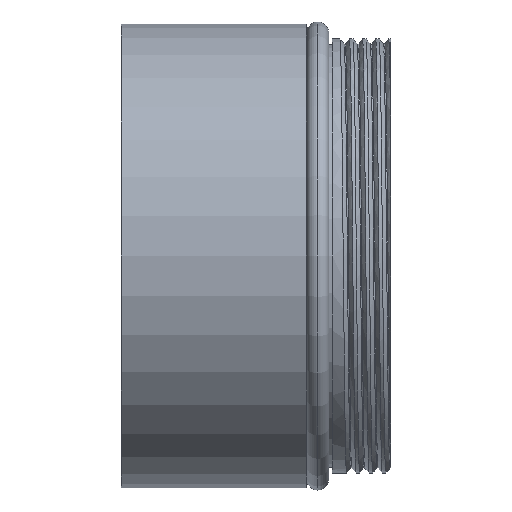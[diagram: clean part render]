
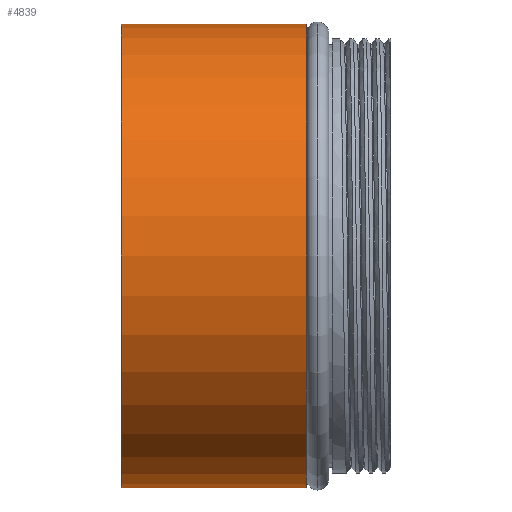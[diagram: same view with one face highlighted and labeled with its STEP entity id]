
A CAD part, front view. The second image highlights one B-rep face of the part: STEP entity #4839.
In plain terms, the highlighted cylindrical face has radius 24.981 mm (diameter 49.962 mm), a partial arc.
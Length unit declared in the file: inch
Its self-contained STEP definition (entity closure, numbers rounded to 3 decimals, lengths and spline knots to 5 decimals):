
#3011 = CARTESIAN_POINT ( 'NONE',  ( -0.11095, 0., 0. ) ) ;
#3086 = DIRECTION ( 'NONE',  ( 0., 0., 1. ) ) ;
#3087 = DIRECTION ( 'NONE',  ( -1., 0., 0. ) ) ;
#3088 = AXIS2_PLACEMENT_3D ( 'NONE', #3093, #3087, #3086 ) ;
#3089 = CIRCLE ( 'NONE', #3088, 0.9835 ) ;
#3090 = DIRECTION ( 'NONE',  ( 0., 0., 1. ) ) ;
#3091 = DIRECTION ( 'NONE',  ( -1., 0., 0. ) ) ;
#3092 = AXIS2_PLACEMENT_3D ( 'NONE', #3011, #3091, #3090 ) ;
#3093 = CARTESIAN_POINT ( 'NONE',  ( 0., 0., 0. ) ) ;
#3094 = CYLINDRICAL_SURFACE ( 'NONE', #3092, 0.9835 ) ;
#3095 = FACE_OUTER_BOUND ( 'NONE', #4941, .T. ) ;
#3685 = AXIS2_PLACEMENT_3D ( 'NONE', #3734, #3690, #3689 ) ;
#3689 = DIRECTION ( 'NONE',  ( 0., 0., 1. ) ) ;
#3690 = DIRECTION ( 'NONE',  ( -1., 0., 0. ) ) ;
#3734 = CARTESIAN_POINT ( 'NONE',  ( 0.785, 0., 0. ) ) ;
#3748 = CIRCLE ( 'NONE', #3685, 0.9835 ) ;
#4467 = VERTEX_POINT ( 'NONE', #5167 ) ;
#4468 = VERTEX_POINT ( 'NONE', #5166 ) ;
#4470 = EDGE_CURVE ( 'NONE', #4468, #4471, #5165, .T. ) ;
#4471 = VERTEX_POINT ( 'NONE', #5161 ) ;
#4505 = EDGE_CURVE ( 'NONE', #4467, #4575, #5357, .T. ) ;
#4575 = VERTEX_POINT ( 'NONE', #5523 ) ;
#4839 = ADVANCED_FACE ( 'NONE', ( #3095 ), #3094, .T. ) ;
#4840 = ORIENTED_EDGE ( 'NONE', *, *, #4470, .F. ) ;
#4841 = ORIENTED_EDGE ( 'NONE', *, *, #4955, .T. ) ;
#4842 = ORIENTED_EDGE ( 'NONE', *, *, #4505, .T. ) ;
#4843 = ORIENTED_EDGE ( 'NONE', *, *, #4844, .F. ) ;
#4844 = EDGE_CURVE ( 'NONE', #4471, #4575, #3089, .T. ) ;
#4941 = EDGE_LOOP ( 'NONE', ( #4840, #4841, #4842, #4843 ) ) ;
#4955 = EDGE_CURVE ( 'NONE', #4468, #4467, #3748, .T. ) ;
#5161 = CARTESIAN_POINT ( 'NONE',  ( 0., 0., -0.9835 ) ) ;
#5162 = DIRECTION ( 'NONE',  ( -1., 0., 0. ) ) ;
#5163 = VECTOR ( 'NONE', #5162, 39.37008 ) ;
#5164 = CARTESIAN_POINT ( 'NONE',  ( -0.11095, 0., -0.9835 ) ) ;
#5165 = LINE ( 'NONE', #5164, #5163 ) ;
#5166 = CARTESIAN_POINT ( 'NONE',  ( 0.785, 0., -0.9835 ) ) ;
#5167 = CARTESIAN_POINT ( 'NONE',  ( 0.785, 0., 0.9835 ) ) ;
#5354 = DIRECTION ( 'NONE',  ( -1., 0., 0. ) ) ;
#5355 = VECTOR ( 'NONE', #5354, 39.37008 ) ;
#5356 = CARTESIAN_POINT ( 'NONE',  ( -0.11095, 0., 0.9835 ) ) ;
#5357 = LINE ( 'NONE', #5356, #5355 ) ;
#5523 = CARTESIAN_POINT ( 'NONE',  ( 0., 0., 0.9835 ) ) ;
